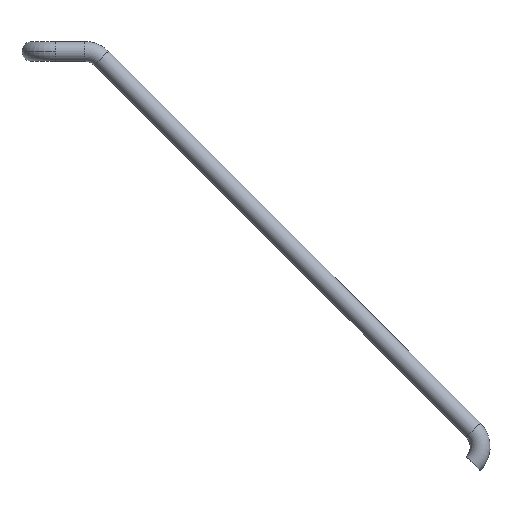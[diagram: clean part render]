
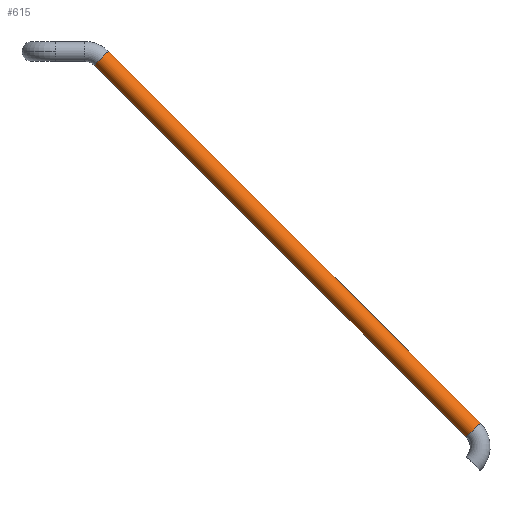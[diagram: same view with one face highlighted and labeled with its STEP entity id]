
A CAD part, front view. The second image highlights one B-rep face of the part: STEP entity #615.
In plain terms, the highlighted cylindrical face has radius 24.15 mm (diameter 48.3 mm), a partial arc.
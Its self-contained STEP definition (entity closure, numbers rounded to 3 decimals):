
#1 = ORIENTED_EDGE ( 'NONE', *, *, #774, .T. ) ;
#53 = DIRECTION ( 'NONE',  ( 0.707, 0., -0.707 ) ) ;
#59 = DIRECTION ( 'NONE',  ( 0.707, 0., -0.707 ) ) ;
#93 = VERTEX_POINT ( 'NONE', #572 ) ;
#111 = AXIS2_PLACEMENT_3D ( 'NONE', #687, #59, #621 ) ;
#188 = DIRECTION ( 'NONE',  ( 0.707, 0., -0.707 ) ) ;
#191 = CARTESIAN_POINT ( 'NONE',  ( 6196.619, 3575., 6242.079 ) ) ;
#202 = ORIENTED_EDGE ( 'NONE', *, *, #409, .F. ) ;
#218 = EDGE_CURVE ( 'NONE', #749, #93, #650, .T. ) ;
#240 = CARTESIAN_POINT ( 'NONE',  ( 6230.77, 3575., 6276.234 ) ) ;
#292 = AXIS2_PLACEMENT_3D ( 'NONE', #447, #711, #380 ) ;
#320 = VERTEX_POINT ( 'NONE', #866 ) ;
#380 = DIRECTION ( 'NONE',  ( -0.707, 0., -0.707 ) ) ;
#385 = ORIENTED_EDGE ( 'NONE', *, *, #218, .T. ) ;
#408 = AXIS2_PLACEMENT_3D ( 'NONE', #787, #188, #863 ) ;
#409 = EDGE_CURVE ( 'NONE', #320, #627, #840, .T. ) ;
#413 = EDGE_CURVE ( 'NONE', #627, #93, #812, .T. ) ;
#447 = CARTESIAN_POINT ( 'NONE',  ( 7116.315, 3575., 5356.617 ) ) ;
#455 = DIRECTION ( 'NONE',  ( 0.707, 0., -0.707 ) ) ;
#458 = CARTESIAN_POINT ( 'NONE',  ( 7133.391, 3575., 5373.694 ) ) ;
#475 = VECTOR ( 'NONE', #455, 1000. ) ;
#485 = VECTOR ( 'NONE', #53, 1000. ) ;
#488 = CIRCLE ( 'NONE', #111, 24.15 ) ;
#532 = CARTESIAN_POINT ( 'NONE',  ( 6196.619, 3575., 6242.079 ) ) ;
#572 = CARTESIAN_POINT ( 'NONE',  ( 7099.239, 3575., 5339.539 ) ) ;
#589 = FACE_OUTER_BOUND ( 'NONE', #764, .T. ) ;
#615 = ADVANCED_FACE ( 'NONE', ( #589 ), #851, .T. ) ;
#621 = DIRECTION ( 'NONE',  ( -0.707, 0., -0.707 ) ) ;
#627 = VERTEX_POINT ( 'NONE', #458 ) ;
#650 = LINE ( 'NONE', #532, #475 ) ;
#687 = CARTESIAN_POINT ( 'NONE',  ( 6213.695, 3575., 6259.157 ) ) ;
#711 = DIRECTION ( 'NONE',  ( 0.707, 0., -0.707 ) ) ;
#718 = ORIENTED_EDGE ( 'NONE', *, *, #413, .F. ) ;
#749 = VERTEX_POINT ( 'NONE', #191 ) ;
#764 = EDGE_LOOP ( 'NONE', ( #202, #1, #385, #718 ) ) ;
#774 = EDGE_CURVE ( 'NONE', #320, #749, #488, .T. ) ;
#787 = CARTESIAN_POINT ( 'NONE',  ( 6213.695, 3575., 6259.157 ) ) ;
#812 = CIRCLE ( 'NONE', #292, 24.15 ) ;
#840 = LINE ( 'NONE', #240, #485 ) ;
#851 = CYLINDRICAL_SURFACE ( 'NONE', #408, 24.15 ) ;
#863 = DIRECTION ( 'NONE',  ( -0.707, 0., -0.707 ) ) ;
#866 = CARTESIAN_POINT ( 'NONE',  ( 6230.77, 3575., 6276.234 ) ) ;
